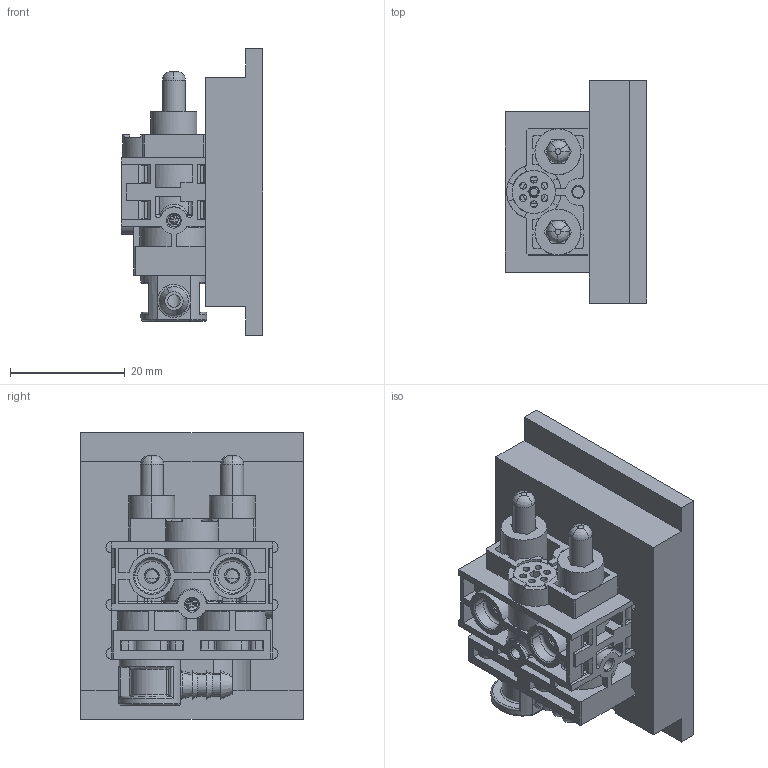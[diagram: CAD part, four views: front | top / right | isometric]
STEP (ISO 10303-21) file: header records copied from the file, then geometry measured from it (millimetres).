
FILE_DESCRIPTION(('CATIA V5 STEP Exchange'),'2;1');
FILE_NAME('D:\姚明阳\1、工装图纸\2、腰托阀（开关）治具工装 -2022.11.26更新\AGZL02 腰托阀压钢珠工装2\AGZL02 设计文件（pdf+stp）\AGZL02.03与工件配合关系示意.stp','2022-12-28T03:26:48+00:00',('none'),('none'),'CATIA Version 5 Release 21 GA (IN-10)','CATIA V5 STEP AP214','none');
FILE_SCHEMA(('AUTOMOTIVE_DESIGN { 1 0 10303 214 1 1 1 1 }'));
Length unit declared in the file: millimetre
Products named in the file (16): Product1; AGZL02.03_V1; BPC0010256; BPC0010200; BPC0010206; BPC0010207; BPC0010224; BSP0010038; BPC0010201; BPC0010210; BPC0010136; BSP0010037; BPC0010202; BPC0010204; SHT0002209; SHT0002205
Assembly tree (25 placements, depth 3):
  Product1
    AGZL02.03_V1
    BPC0010256
      BPC0010200
      BPC0010206
      BPC0010207
      BPC0010224
      BSP0010038
      BPC0010201  x2
      BPC0010210  x4
      BPC0010136  x4
      BSP0010037  x2
      BPC0010202
      BPC0010204
      SHT0002209  x2
      SHT0002205  x2
Bounding box: 24.7 x 38.8 x 50 mm (x, y, z)
Volume: 23406.8 mm3; surface area: 19375 mm2
Topology: 24 solids, 28 shells, 1105 faces, 2955 edges, 1922 vertices
Faces by surface type: plane 459, cylinder 386, cone 92, torus 74, bspline 44, revolution 18, sphere 17, extrusion 15
Entity records: 36292 total; most frequent: CARTESIAN_POINT 13614, ORIENTED_EDGE 5172, DIRECTION 3566, EDGE_CURVE 2586, VERTEX_POINT 1696, AXIS2_PLACEMENT_3D 1465, VECTOR 1386, LINE 1371
